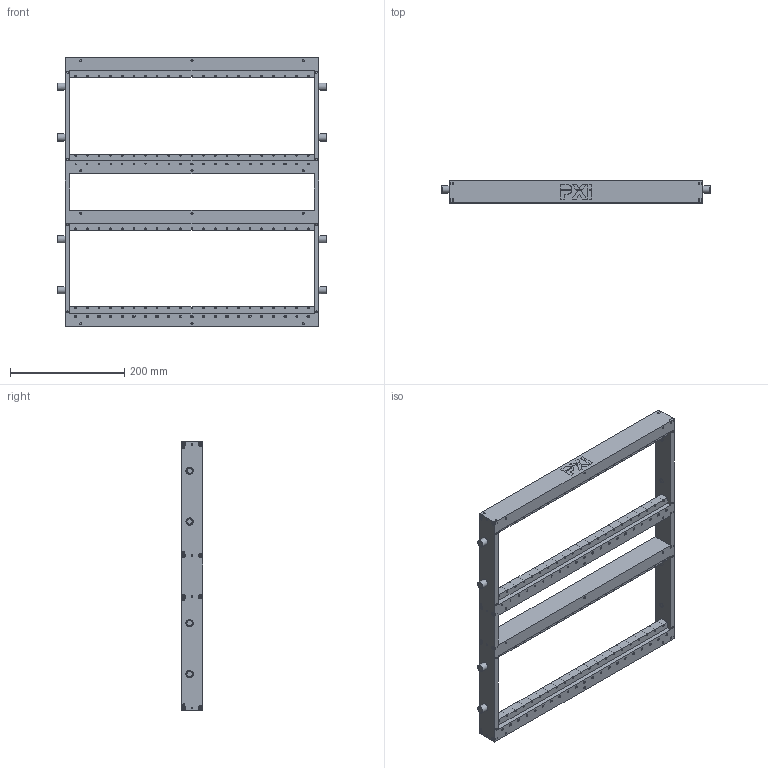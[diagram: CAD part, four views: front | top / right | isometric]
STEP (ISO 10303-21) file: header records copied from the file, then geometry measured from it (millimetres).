
FILE_DESCRIPTION((''),'2;1');
FILE_NAME('C:\copy my documents\Inventor\web site project\ITAs\561997-CU.stp','2013-08-02T11:24:09',('davecooper'),(''),'Autodesk Inventor 2011','Autodesk Inventor 2011','');
FILE_SCHEMA(('AUTOMOTIVE_DESIGN { 1 0 10303 214 1 1 1 1 }'));
Length unit declared in the file: inch
Products named in the file (1): 561997-CU
Bounding box: 470.41 x 38.1 x 470.03 mm (x, y, z)
Volume: 1905089.7 mm3; surface area: 363322.8 mm2
Topology: 1 solids, 9 shells, 1924 faces, 5154 edges, 3460 vertices
Faces by surface type: plane 824, bspline 774, cylinder 258, cone 68
Full cylindrical faces by diameter (mm): 2.794 x8, 2.845 x84, 3.175 x8, 3.429 x8, 3.505 x36, 3.81 x16, 7.144 x32, 7.747 x8, 7.925 x16, 9.271 x8, 9.462 x8, 9.538 x8, 11.1 x8, 12.675 x8
Entity records: 63019 total; most frequent: CARTESIAN_POINT 19893, ORIENTED_EDGE 9276, DIRECTION 5924, EDGE_CURVE 4638, VERTEX_POINT 3268, EDGE_LOOP 2650, VECTOR 2558, LINE 2558
